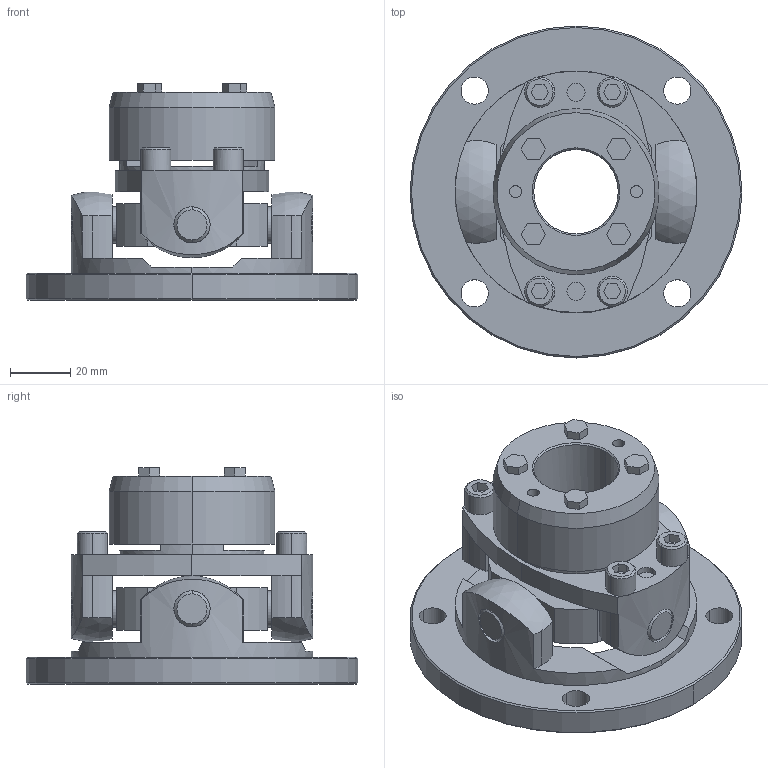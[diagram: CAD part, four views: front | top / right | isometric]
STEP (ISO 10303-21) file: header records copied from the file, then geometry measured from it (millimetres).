
FILE_DESCRIPTION((''),'2;1');
FILE_NAME('UCNF-80T7-28.stp','2011-09-17T16:29:56',(''),(''),'AutoCAD STEP 2000i','AutoCAD 2000i',', , ');
FILE_SCHEMA(('CONFIG_CONTROL_DESIGN'));
Length unit declared in the file: millimetre
Products named in the file (10): UCNF-80T7-28; 忣兜1; UCN80T7-T028; UCN80T7-T024; UCN80T7-T022; UCN80T7-T019; UCNF-8002; UCN80T7-T017-1; UCN80T7-T017; UCN80-SEN
Assembly tree (9 placements, depth 2):
  UCNF-80T7-28
    忣兜1
    UCN80T7-T028
    UCN80T7-T024
    UCN80T7-T022
    UCN80T7-T019
    UCNF-8002
    UCN80T7-T017-1
    UCN80T7-T017
    UCN80-SEN
Bounding box: 110 x 110 x 71.8 mm (x, y, z)
Volume: 189029.8 mm3; surface area: 54759.9 mm2
Topology: 1 solids, 1 shells, 282 faces, 706 edges, 460 vertices
Faces by surface type: plane 136, cylinder 104, cone 38, sphere 4
Entity records: 9125 total; most frequent: CARTESIAN_POINT 1862, DIRECTION 1572, ORIENTED_EDGE 1412, EDGE_CURVE 706, AXIS2_PLACEMENT_3D 590, VERTEX_POINT 460, VECTOR 392, LINE 392
